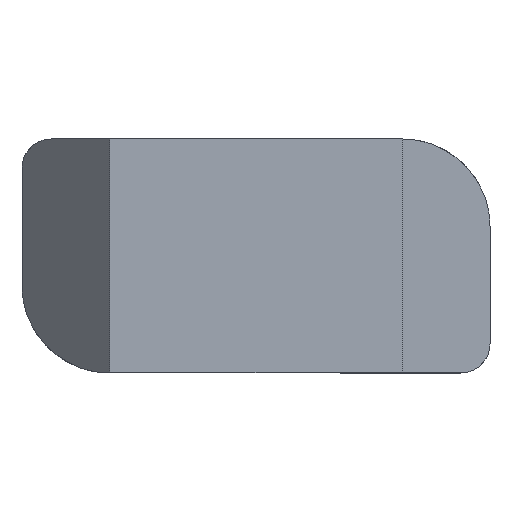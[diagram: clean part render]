
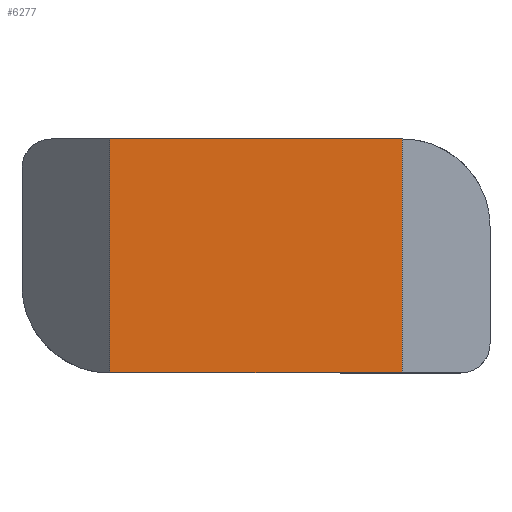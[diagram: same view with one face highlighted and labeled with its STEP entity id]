
A CAD part, front view. The second image highlights one B-rep face of the part: STEP entity #6277.
In plain terms, the highlighted planar face has unit normal (0, -1, 0).
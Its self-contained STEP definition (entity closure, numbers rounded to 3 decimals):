
#278 = DIRECTION ( 'NONE',  ( 0., 0., -1. ) ) ;
#629 = VECTOR ( 'NONE', #2460, 1000. ) ;
#877 = CARTESIAN_POINT ( 'NONE',  ( -5., -6.5, -4. ) ) ;
#1014 = CARTESIAN_POINT ( 'NONE',  ( -5., -6.5, 4. ) ) ;
#1057 = VECTOR ( 'NONE', #6111, 1000. ) ;
#1263 = CARTESIAN_POINT ( 'NONE',  ( 5., -6.5, 4. ) ) ;
#1688 = LINE ( 'NONE', #1263, #3405 ) ;
#1932 = CARTESIAN_POINT ( 'NONE',  ( -5., -6.5, 4. ) ) ;
#1940 = FACE_OUTER_BOUND ( 'NONE', #3952, .T. ) ;
#2275 = EDGE_CURVE ( 'NONE', #6171, #4618, #4270, .T. ) ;
#2314 = CARTESIAN_POINT ( 'NONE',  ( 5., -6.5, -4. ) ) ;
#2386 = CARTESIAN_POINT ( 'NONE',  ( -5., -6.5, 4. ) ) ;
#2460 = DIRECTION ( 'NONE',  ( 0., 0., -1. ) ) ;
#2718 = CARTESIAN_POINT ( 'NONE',  ( 5., -6.5, 4. ) ) ;
#2847 = CARTESIAN_POINT ( 'NONE',  ( -5., -6.5, -4. ) ) ;
#3405 = VECTOR ( 'NONE', #278, 1000. ) ;
#3430 = DIRECTION ( 'NONE',  ( 1., 0., 0. ) ) ;
#3511 = ORIENTED_EDGE ( 'NONE', *, *, #4976, .F. ) ;
#3558 = EDGE_CURVE ( 'NONE', #4104, #5998, #5259, .T. ) ;
#3598 = CARTESIAN_POINT ( 'NONE',  ( -5., -6.5, 4. ) ) ;
#3709 = PLANE ( 'NONE',  #5881 ) ;
#3915 = EDGE_CURVE ( 'NONE', #6171, #4104, #5339, .T. ) ;
#3952 = EDGE_LOOP ( 'NONE', ( #4652, #3511, #5405, #4229 ) ) ;
#4104 = VERTEX_POINT ( 'NONE', #2847 ) ;
#4229 = ORIENTED_EDGE ( 'NONE', *, *, #3915, .T. ) ;
#4270 = LINE ( 'NONE', #2386, #6759 ) ;
#4618 = VERTEX_POINT ( 'NONE', #2718 ) ;
#4652 = ORIENTED_EDGE ( 'NONE', *, *, #3558, .T. ) ;
#4726 = DIRECTION ( 'NONE',  ( -1., 0., 0. ) ) ;
#4976 = EDGE_CURVE ( 'NONE', #4618, #5998, #1688, .T. ) ;
#5259 = LINE ( 'NONE', #877, #1057 ) ;
#5339 = LINE ( 'NONE', #1932, #629 ) ;
#5405 = ORIENTED_EDGE ( 'NONE', *, *, #2275, .F. ) ;
#5853 = DIRECTION ( 'NONE',  ( 0., 1., 0. ) ) ;
#5881 = AXIS2_PLACEMENT_3D ( 'NONE', #1014, #5853, #4726 ) ;
#5998 = VERTEX_POINT ( 'NONE', #2314 ) ;
#6111 = DIRECTION ( 'NONE',  ( 1., 0., 0. ) ) ;
#6171 = VERTEX_POINT ( 'NONE', #3598 ) ;
#6277 = ADVANCED_FACE ( 'NONE', ( #1940 ), #3709, .F. ) ;
#6759 = VECTOR ( 'NONE', #3430, 1000. ) ;
